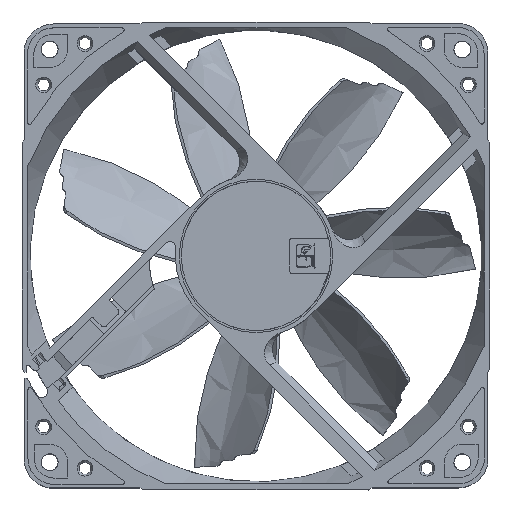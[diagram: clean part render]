
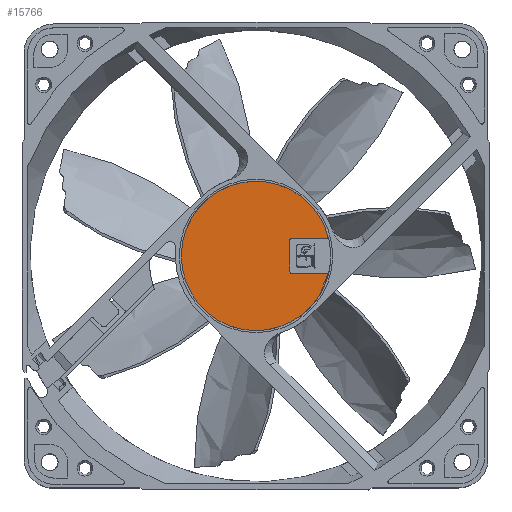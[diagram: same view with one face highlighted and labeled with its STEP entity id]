
A CAD part, top view. The second image highlights one B-rep face of the part: STEP entity #15766.
In plain terms, the highlighted planar face has unit normal (0, 0, 1).
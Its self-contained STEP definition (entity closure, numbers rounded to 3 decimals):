
#206=CIRCLE('',#17100,0.6);
#207=CIRCLE('',#17101,0.6);
#208=CIRCLE('',#17102,0.6);
#209=CIRCLE('',#17103,0.6);
#213=CIRCLE('',#17108,19.);
#1176=LINE('',#28318,#2335);
#1177=LINE('',#28322,#2336);
#1178=LINE('',#28326,#2337);
#2335=VECTOR('',#18671,1000.);
#2336=VECTOR('',#18674,1000.);
#2337=VECTOR('',#18677,1000.);
#3468=PLANE('',#17110);
#4365=ORIENTED_EDGE('',*,*,#9089,.F.);
#4366=ORIENTED_EDGE('',*,*,#9088,.F.);
#4367=ORIENTED_EDGE('',*,*,#9104,.F.);
#4368=ORIENTED_EDGE('',*,*,#9094,.T.);
#4369=ORIENTED_EDGE('',*,*,#9093,.F.);
#4370=ORIENTED_EDGE('',*,*,#9092,.F.);
#4371=ORIENTED_EDGE('',*,*,#9091,.F.);
#4372=ORIENTED_EDGE('',*,*,#9090,.F.);
#9088=EDGE_CURVE('',#11502,#11503,#206,.T.);
#9089=EDGE_CURVE('',#11503,#11504,#1176,.T.);
#9090=EDGE_CURVE('',#11504,#11505,#207,.T.);
#9091=EDGE_CURVE('',#11505,#11506,#1177,.T.);
#9092=EDGE_CURVE('',#11506,#11507,#208,.T.);
#9093=EDGE_CURVE('',#11507,#11508,#1178,.T.);
#9094=EDGE_CURVE('',#11509,#11508,#209,.T.);
#9104=EDGE_CURVE('',#11509,#11502,#213,.T.);
#11502=VERTEX_POINT('',#28316);
#11503=VERTEX_POINT('',#28317);
#11504=VERTEX_POINT('',#28319);
#11505=VERTEX_POINT('',#28321);
#11506=VERTEX_POINT('',#28323);
#11507=VERTEX_POINT('',#28325);
#11508=VERTEX_POINT('',#28327);
#11509=VERTEX_POINT('',#28329);
#13789=EDGE_LOOP('',(#4365,#4366,#4367,#4368,#4369,#4370,#4371,#4372));
#14764=FACE_BOUND('',#13789,.T.);
#15766=ADVANCED_FACE('',(#14764),#3468,.F.);
#17100=AXIS2_PLACEMENT_3D('',#28315,#18669,#18670);
#17101=AXIS2_PLACEMENT_3D('',#28320,#18672,#18673);
#17102=AXIS2_PLACEMENT_3D('',#28324,#18675,#18676);
#17103=AXIS2_PLACEMENT_3D('',#28328,#18678,#18679);
#17108=AXIS2_PLACEMENT_3D('',#28356,#18693,#18694);
#17110=AXIS2_PLACEMENT_3D('',#28359,#18697,#18698);
#18669=DIRECTION('',(0.,0.,1.));
#18670=DIRECTION('',(1.,0.,0.));
#18671=DIRECTION('',(0.,-1.,0.));
#18672=DIRECTION('',(0.,0.,1.));
#18673=DIRECTION('',(1.,0.,0.));
#18674=DIRECTION('',(1.,0.,0.));
#18675=DIRECTION('',(0.,0.,1.));
#18676=DIRECTION('',(-1.,0.,0.));
#18677=DIRECTION('',(0.,1.,0.));
#18678=DIRECTION('',(0.,0.,-1.));
#18679=DIRECTION('',(-1.,0.,0.));
#18693=DIRECTION('',(0.,0.,-1.));
#18694=DIRECTION('',(1.,0.,0.));
#18697=DIRECTION('',(0.,0.,-1.));
#18698=DIRECTION('',(-1.,0.,0.));
#28315=CARTESIAN_POINT('',(-3.85,17.993,0.5));
#28316=CARTESIAN_POINT('',(-3.976,18.579,0.5));
#28317=CARTESIAN_POINT('',(-4.45,17.993,0.5));
#28318=CARTESIAN_POINT('',(-4.45,17.993,0.5));
#28319=CARTESIAN_POINT('',(-4.45,9.2,0.5));
#28320=CARTESIAN_POINT('',(-3.85,9.2,0.5));
#28321=CARTESIAN_POINT('',(-3.85,8.6,0.5));
#28322=CARTESIAN_POINT('',(-3.85,8.6,0.5));
#28323=CARTESIAN_POINT('',(3.85,8.6,0.5));
#28324=CARTESIAN_POINT('',(3.85,9.2,0.5));
#28325=CARTESIAN_POINT('',(4.45,9.2,0.5));
#28326=CARTESIAN_POINT('',(4.45,9.2,0.5));
#28327=CARTESIAN_POINT('',(4.45,17.993,0.5));
#28328=CARTESIAN_POINT('',(3.85,17.993,0.5));
#28329=CARTESIAN_POINT('',(3.976,18.579,0.5));
#28356=CARTESIAN_POINT('',(0.,0.,0.5));
#28359=CARTESIAN_POINT('',(0.,0.,0.5));
